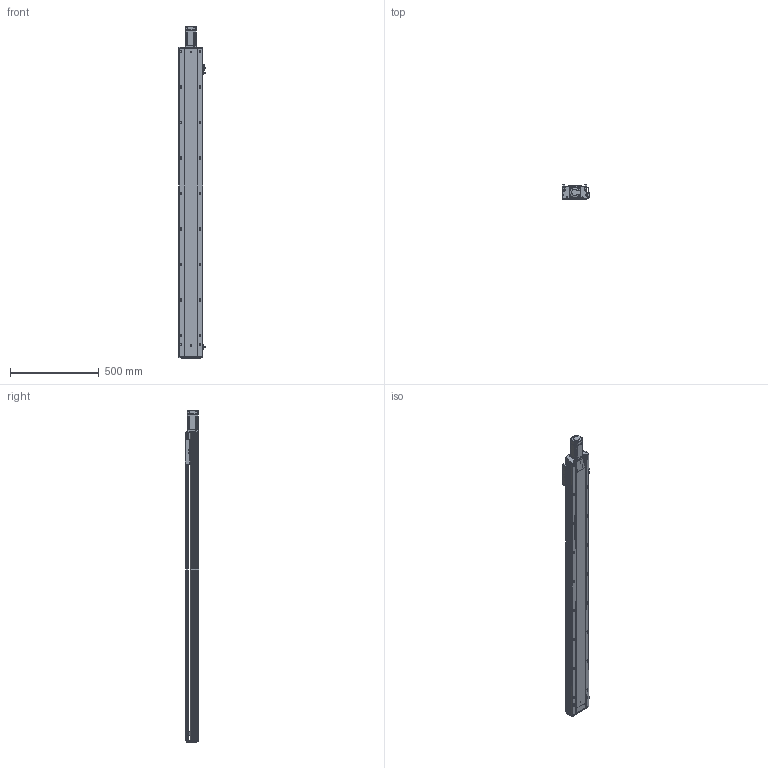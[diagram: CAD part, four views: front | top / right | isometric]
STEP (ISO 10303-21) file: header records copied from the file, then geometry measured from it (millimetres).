
FILE_DESCRIPTION (( 'STEP AP203' ), '1' );
FILE_NAME ('RY140Q-L2010-1000-MK.SLDASM_1500.step', '2021-05-27T07:35:05', ( '盈信电脑' ), ( '东莞市道滘镇水果街19号' ), 'SwSTEP 2.0', 'SolidWorks 2016', '' );
FILE_SCHEMA (( 'CONFIG_CONTROL_DESIGN' ));
Length unit declared in the file: millimetre
Products named in the file (13): RY140綴裔啣; RY140Q-1000-MK倰第奻裔啣_1500; 滅袉蝶18-15; RY140Q萇儂傷盓傅釱FK12(80.5酗M5); RY140Q-1000-MK倰第菁釱_1500; RY140Q臏賑輸(20佪裝-J; 侂狟400W侜督萇儂; 覜茼ん672; RY120外置感应片(140共用）; 15; 滅袉蝶18-10; RY140ヶ裔啣; RY140Q-L2010-1000-MK.SLDASM_1500
Assembly tree (15 placements, depth 3):
  RY140Q-L2010-1000-MK.SLDASM_1500
    RY140Q-1000-MK倰第菁釱_1500
    RY140Q臏賑輸(20佪裝-J
    RY140Q-1000-MK倰第奻裔啣_1500
    RY140ヶ裔啣
    侂狟400W侜督萇儂
      15
    RY140綴裔啣
    覜茼ん672  x3
    RY120外置感应片(140共用）
    RY140Q萇儂傷盓傅釱FK12(80.5酗M5)
    滅袉蝶18-10
    滅袉蝶18-15  x2
Bounding box: 148.7 x 78 x 1869.5 mm (x, y, z)
Volume: 5028702.7 mm3; surface area: 1893051.5 mm2
Topology: 14 solids, 14 shells, 2252 faces, 6251 edges, 3969 vertices
Faces by surface type: plane 1090, cylinder 830, cone 247, bspline 85
Entity records: 74259 total; most frequent: CARTESIAN_POINT 17756, ORIENTED_EDGE 11690, DIRECTION 11173, EDGE_CURVE 5845, VERTEX_POINT 3829, AXIS2_PLACEMENT_3D 3755, VECTOR 3663, LINE 3663
